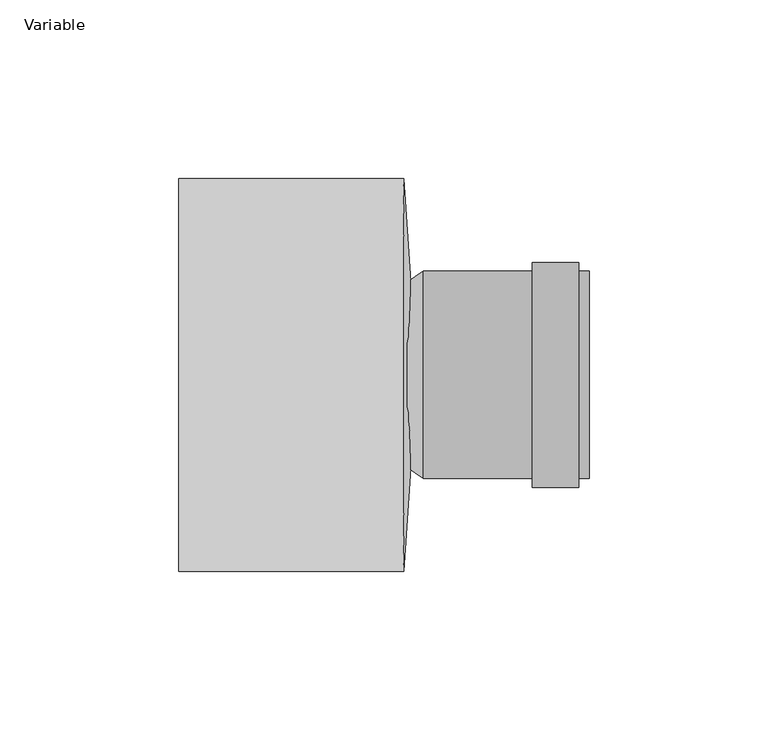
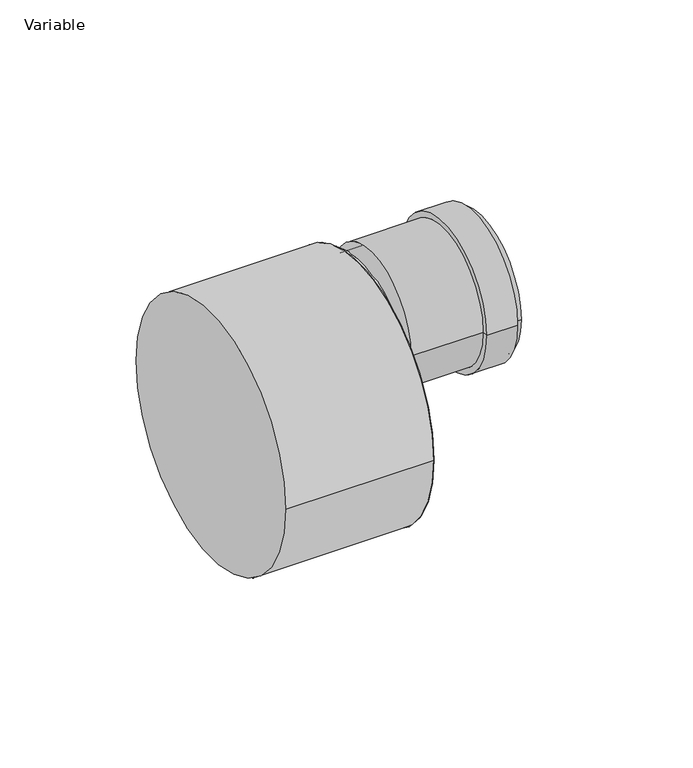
"""IFC4 building model written with IfcOpenShell, lengths in millimetres: pipe fitting geometry, AliaxisFR_Friaphon_Reducer_FR : Variable."""

import ifcopenshell
import ifcopenshell.guid

model = None  # the IFC model being written
_history = None  # IfcOwnerHistory: only IFC2X3 demands one
_inside = {}  # id of a spatial element -> (the spatial element, [elements in it])
_under = {}  # id of a project, library or spatial element -> (it, [spatial elements below it])
_declared = {}  # id of a project -> (the project, [libraries it declares])
_typed = {}  # id of a type object -> (the type object, [elements of that type])
_made_of = {}  # id of a material, layer set ... -> (it, [elements and type objects made of it])


def new_model(schema):
    """Start an empty IFC model of exactly this schema.

    Asked for "IFC4X3", IfcOpenShell would pick the latest addendum, in which some entities
    have other attributes; the version numbers below select the first issue.
    IFC2X3 requires an IfcOwnerHistory on every rooted entity: one is made here for all.
    """
    global model, _history
    if schema == "IFC4X3":
        model = ifcopenshell.file(schema_version=(4, 3, 0, 0))
    else:
        model = ifcopenshell.file(schema=schema)
    _inside.clear()
    _under.clear()
    _declared.clear()
    _typed.clear()
    _made_of.clear()
    _history = None
    if model.schema == "IFC2X3":
        org = make("IfcOrganization", Name="unknown")
        user = make(
            "IfcPersonAndOrganization",
            ThePerson=make("IfcPerson", FamilyName="unknown"),
            TheOrganization=org,
        )
        app = make(
            "IfcApplication",
            ApplicationDeveloper=org,
            Version="unknown",
            ApplicationFullName="unknown",
            ApplicationIdentifier="unknown",
        )
        _history = make(
            "IfcOwnerHistory",
            OwningUser=user,
            OwningApplication=app,
            ChangeAction="ADDED",
            CreationDate=0,
        )
    return model


def make(cls, **values):
    """One entity of the class cls with the attributes given. An attribute that is None is left unset."""
    return model.create_entity(
        cls, **{name: value for name, value in values.items() if value is not None}
    )


def rooted(cls, **values):
    """An entity with a GlobalId (a new one), such as an element, a storey or a relation."""
    return make(cls, GlobalId=ifcopenshell.guid.new(), OwnerHistory=_history, **values)


def si_unit(unit_type, name, prefix=None):
    """IfcSIUnit, for example si_unit("LENGTHUNIT", "METRE", prefix="MILLI")."""
    return make("IfcSIUnit", UnitType=unit_type, Prefix=prefix, Name=name)


def assignment(units):
    """IfcUnitAssignment: the units of a project."""
    return None if units is None else make("IfcUnitAssignment", Units=units)


def point(xyz):
    """IfcCartesianPoint."""
    return None if xyz is None else make("IfcCartesianPoint", Coordinates=xyz)


def direction(xyz):
    """IfcDirection."""
    return None if xyz is None else make("IfcDirection", DirectionRatios=xyz)


def frame(location, z_axis=None, x_axis=None):
    """IfcAxis2Placement3D, a coordinate frame: its origin and axes. An axis left out is left unset."""
    return make(
        "IfcAxis2Placement3D",
        Location=point(location),
        Axis=direction(z_axis),
        RefDirection=direction(x_axis),
    )


def frame_2d(location, x_axis=None):
    """IfcAxis2Placement2D, a coordinate frame in the plane: its origin and x axis."""
    return make(
        "IfcAxis2Placement2D", Location=point(location), RefDirection=direction(x_axis)
    )


def origin():
    """The frame at (0, 0, 0) with its axes left unset."""
    return frame((0.0, 0.0, 0.0))


def origin_2d():
    """The frame at (0, 0) in the plane with its x axis left unset."""
    return frame_2d((0.0, 0.0))


def place(relative_to, where):
    """IfcLocalPlacement: puts the frame where relative to a parent placement (None: the world)."""
    return make(
        "IfcLocalPlacement", PlacementRelTo=relative_to, RelativePlacement=where
    )


def context(
    kind, dimensions, precision=None, world=None, true_north=None, identifier=None
):
    """IfcGeometricRepresentationContext, for example the 3D "Model" context."""
    return make(
        "IfcGeometricRepresentationContext",
        ContextIdentifier=identifier,
        ContextType=kind,
        CoordinateSpaceDimension=dimensions,
        Precision=precision,
        WorldCoordinateSystem=world,
        TrueNorth=true_north,
    )


def project(units=None, contexts=None):
    """IfcProject with its units and contexts."""
    return rooted(
        "IfcProject",
        Name="project",
        RepresentationContexts=contexts,
        UnitsInContext=assignment(units),
    )


def spatial(cls, under=None, at=None, **own):
    """A site, building, storey or space (cls), placed at a placement, below another one or the project."""
    s = rooted(cls, ObjectPlacement=at, **own)
    if under is not None:
        _under.setdefault(under.id(), (under, []))[1].append(s)
    return s


def polyline(points):
    """IfcPolyline through the points."""
    return make("IfcPolyline", Points=[point(p) for p in points])


def circle_curve(where, radius):
    """IfcCircle in the frame where."""
    return make("IfcCircle", Position=where, Radius=radius)


def trimmed(basis, trim1, trim2, sense, master):
    """IfcTrimmedCurve: the piece of a basis curve between two trims."""
    return make(
        "IfcTrimmedCurve",
        BasisCurve=basis,
        Trim1=trim1,
        Trim2=trim2,
        SenseAgreement=sense,
        MasterRepresentation=master,
    )


def segment(curve, same_sense, transition):
    """IfcCompositeCurveSegment."""
    return make(
        "IfcCompositeCurveSegment",
        Transition=transition,
        SameSense=same_sense,
        ParentCurve=curve,
    )


def composite_curve(segments, self_intersect=None):
    """IfcCompositeCurve: segments joined end to end."""
    return make("IfcCompositeCurve", Segments=segments, SelfIntersect=self_intersect)


def outline(outer, holes=None, kind="AREA"):
    """IfcArbitraryClosedProfileDef: a profile drawn as a closed curve; with holes, ...WithVoids."""
    if holes is None:
        return make("IfcArbitraryClosedProfileDef", ProfileType=kind, OuterCurve=outer)
    return make(
        "IfcArbitraryProfileDefWithVoids",
        ProfileType=kind,
        OuterCurve=outer,
        InnerCurves=holes,
    )


def extrude(swept, where, along, depth):
    """IfcExtrudedAreaSolid: the profile swept, set in the frame where, extruded along a direction by depth."""
    return make(
        "IfcExtrudedAreaSolid",
        SweptArea=swept,
        Position=where,
        ExtrudedDirection=direction(along),
        Depth=depth,
    )


def shape(context_of_items, identifier, shape_type, items):
    """IfcShapeRepresentation: the items that make up one representation, for example the "Body"."""
    return make(
        "IfcShapeRepresentation",
        ContextOfItems=context_of_items,
        RepresentationIdentifier=identifier,
        RepresentationType=shape_type,
        Items=items,
    )


def source(mapping_origin, context_of_items, identifier, shape_type, items):
    """IfcRepresentationMap: a shape defined once, which mapped items show again and again."""
    return make(
        "IfcRepresentationMap",
        MappingOrigin=mapping_origin,
        MappedRepresentation=shape(context_of_items, identifier, shape_type, items),
    )


def transform(
    local_origin,
    x_axis=None,
    y_axis=None,
    z_axis=None,
    scale=None,
    scale2=None,
    scale3=None,
    uniform=True,
):
    """IfcCartesianTransformationOperator3D, or its non-uniform kind. x_axis, y_axis, z_axis: its Axis1, 2, 3."""
    if uniform:
        return make(
            "IfcCartesianTransformationOperator3D",
            Axis1=direction(x_axis),
            Axis2=direction(y_axis),
            LocalOrigin=point(local_origin),
            Scale=scale,
            Axis3=direction(z_axis),
        )
    return make(
        "IfcCartesianTransformationOperator3DnonUniform",
        Axis1=direction(x_axis),
        Axis2=direction(y_axis),
        LocalOrigin=point(local_origin),
        Scale=scale,
        Axis3=direction(z_axis),
        Scale2=scale2,
        Scale3=scale3,
    )


def mapped(mapping_source, mapping_target):
    """IfcMappedItem: shows the shape of a source again, moved by a transform."""
    return make(
        "IfcMappedItem", MappingSource=mapping_source, MappingTarget=mapping_target
    )


def made_of(thing, what):
    """Note that an element or type object is made of a material, layer set ...; save() writes the relation."""
    if what is not None:
        _made_of.setdefault(what.id(), (what, []))[1].append(thing)
    return thing


def element(
    cls,
    number,
    at=None,
    inside=None,
    cuts=None,
    type_object=None,
    material=None,
    context=None,
    identifier="Body",
    shape_type=None,
    held_by="IfcProductDefinitionShape",
    body=None,
    shapes=None,
    **own,
):
    """One element of the class cls, such as IfcWall. Its Tag is "e" and its number.

    at: its placement. inside: the storey or other place that contains it. cuts: it is an
    opening in that element (IfcRelVoidsElement). A single representation is given by context,
    identifier, shape_type and body (its items); several are given by shapes. held_by: the class
    of the entity that holds the representations. save() writes the other relations.
    """
    e = rooted(cls, Tag="e%d" % number, ObjectPlacement=at, **own)
    if body is not None:
        shapes = [shape(context, identifier, shape_type, body)]
    if shapes is not None:
        e.Representation = make(held_by, Representations=shapes)
    if inside is not None:
        _inside.setdefault(inside.id(), (inside, []))[1].append(e)
    if cuts is not None:
        rooted(
            "IfcRelVoidsElement", RelatingBuildingElement=cuts, RelatedOpeningElement=e
        )
    if type_object is not None:
        _typed.setdefault(type_object.id(), (type_object, []))[1].append(e)
    return made_of(e, material)


def aggregate(whole, parts):
    """IfcRelAggregates: a whole, such as a stair, and the parts it consists of."""
    return rooted("IfcRelAggregates", RelatingObject=whole, RelatedObjects=parts)


def save(model, path):
    """Write the relations noted so far, then the file.

    IfcRelAggregates (storeys below a building ...), IfcRelContainedInSpatialStructure (elements
    in a storey), IfcRelDefinesByType, IfcRelAssociatesMaterial and IfcRelDeclares: one each for
    every whole, place, type object, material and project.
    """
    for whole, parts in _under.values():
        aggregate(whole, parts)
    for where, things in _inside.values():
        rooted(
            "IfcRelContainedInSpatialStructure",
            RelatedElements=things,
            RelatingStructure=where,
        )
    for kind, things in _typed.values():
        rooted("IfcRelDefinesByType", RelatedObjects=things, RelatingType=kind)
    for what, things in _made_of.values():
        rooted("IfcRelAssociatesMaterial", RelatedObjects=things, RelatingMaterial=what)
    for by, libraries in _declared.values():
        rooted("IfcRelDeclares", RelatingContext=by, RelatedDefinitions=libraries)
    model.write(path)


def plane_surface(at):
    """IfcPlane: the flat surface through the origin of the frame at, square to its z axis."""
    return make("IfcPlane", Position=at)


def cylinder_surface(at, radius):
    """IfcCylindricalSurface: all points at the distance radius from the z axis of the frame at."""
    return make("IfcCylindricalSurface", Position=at, Radius=radius)


def revolved_surface(curve, axis_point, axis_direction):
    """IfcSurfaceOfRevolution: the curve turned about the line through axis_point along axis_direction."""
    return make(
        "IfcSurfaceOfRevolution",
        SweptCurve=make("IfcArbitraryOpenProfileDef", ProfileType="CURVE", Curve=curve),
        AxisPosition=make("IfcAxis1Placement", Location=point(axis_point), Axis=direction(axis_direction)),
    )


def spline_surface(u_degree, v_degree, points, u_multiplicities, v_multiplicities, u_knots, v_knots, weights=None):
    """IfcBSplineSurfaceWithKnots; with weights, IfcRationalBSplineSurfaceWithKnots. points: one row for each step in u."""
    own = dict(
        UDegree=u_degree,
        VDegree=v_degree,
        ControlPointsList=[[point(p) for p in row] for row in points],
        SurfaceForm="UNSPECIFIED",
        UClosed=False,
        VClosed=False,
        SelfIntersect=False,
        UMultiplicities=u_multiplicities,
        VMultiplicities=v_multiplicities,
        UKnots=u_knots,
        VKnots=v_knots,
        KnotSpec="UNSPECIFIED",
    )
    if weights is None:
        return make("IfcBSplineSurfaceWithKnots", **own)
    return make("IfcRationalBSplineSurfaceWithKnots", WeightsData=weights, **own)


def advanced_brep(points, edges, surfaces, faces):
    """IfcAdvancedBrep: a solid bounded by faces that lie on surfaces and meet in shared edges.

    An edge is (start, end): straight between two places in points (the first is 0);
    or (start, end, curve); or (start, end, curve, False) where it runs against its curve.
    A face is (place in surfaces, loops), or (place, loops, False) where it looks against
    its surface's normal. A loop lists edges by number (the first is 1), with a minus sign
    where the edge is run from its end to its start. The first loop is the outer one.
    """
    corners = [point(p) for p in points]
    vertices = [make("IfcVertexPoint", VertexGeometry=c) for c in corners]
    made = []
    for start, end, *more in edges:
        made.append(
            make(
                "IfcEdgeCurve",
                EdgeStart=vertices[start],
                EdgeEnd=vertices[end],
                EdgeGeometry=more[0] if more else make("IfcPolyline", Points=[corners[start], corners[end]]),
                SameSense=more[1] if len(more) > 1 else True,
            )
        )
    hull = []
    for where, loops, *sense in faces:
        bounds = []
        for j, loop in enumerate(loops):
            ring = [make("IfcOrientedEdge", EdgeElement=made[abs(k) - 1], Orientation=k > 0) for k in loop]
            bounds.append(
                make(
                    "IfcFaceOuterBound" if j == 0 else "IfcFaceBound",
                    Bound=make("IfcEdgeLoop", EdgeList=ring),
                    Orientation=True,
                )
            )
        hull.append(make("IfcAdvancedFace", Bounds=bounds, FaceSurface=surfaces[where], SameSense=sense[0] if sense else True))
    return make("IfcAdvancedBrep", Outer=make("IfcClosedShell", CfsFaces=hull))


def variable_dde04700(model_context):
    return source(origin(), model_context, "Body", "SolidModel", [
        advanced_brep(
        [(81.5, -29.0, 0.0), (81.5, -26.0, 0.0), (81.5, 26.0, 0.0), (81.5, 29.0, 0.0), (65.5, -31.5, 0.0), (78.5, -31.5, 0.0), (78.5, 31.5, 0.0), (65.5, 31.5, 0.0), (65.5, -29.0, 0.0), (65.5, 29.0, 0.0), (35.0, -29.0, 0.0), (35.0, 29.0, 0.0), (30.5, -26.0, 0.0), (30.5, 26.0, 0.0), (78.5, -29.0, 0.0), (78.5, 29.0, 0.0)],
        [
            (0, 1),
            (1, 2, circle_curve(frame((81.5, 0.0, 0.0), z_axis=(-1.0, 0.0, 0.0), x_axis=(0.0, 1.0, 0.0)), 26.0)),
            (2, 3),
            (3, 0, circle_curve(frame((81.5, 0.0, 0.0), z_axis=(1.0, 0.0, 0.0), x_axis=(0.0, 1.0, 0.0)), 29.0)),
            (2, 1, circle_curve(frame((81.5, 0.0, 0.0), z_axis=(-1.0, 0.0, 0.0), x_axis=(0.0, 1.0, 0.0)), 26.0)),
            (0, 3, circle_curve(frame((81.5, 0.0, 0.0), z_axis=(1.0, 0.0, 0.0), x_axis=(0.0, 1.0, 0.0)), 29.0)),
            (4, 5),
            (5, 6, circle_curve(frame((78.5, 0.0, 0.0), z_axis=(-1.0, 0.0, 0.0), x_axis=(0.0, 1.0, 0.0)), 31.5)),
            (6, 7),
            (7, 4, circle_curve(frame((65.5, 0.0, 0.0), z_axis=(1.0, 0.0, 0.0), x_axis=(0.0, 1.0, 0.0)), 31.5)),
            (6, 5, circle_curve(frame((78.5, 0.0, 0.0), z_axis=(-1.0, 0.0, 0.0), x_axis=(0.0, 1.0, 0.0)), 31.5)),
            (4, 7, circle_curve(frame((65.5, 0.0, 0.0), z_axis=(1.0, 0.0, 0.0), x_axis=(0.0, 1.0, 0.0)), 31.5)),
            (8, 4),
            (7, 9),
            (9, 8, circle_curve(frame((65.5, 0.0, 0.0), z_axis=(1.0, 0.0, 0.0), x_axis=(0.0, 1.0, 0.0)), 29.0)),
            (8, 9, circle_curve(frame((65.5, 0.0, 0.0), z_axis=(1.0, 0.0, 0.0), x_axis=(0.0, 1.0, 0.0)), 29.0)),
            (10, 8),
            (9, 11),
            (11, 10, circle_curve(frame((35.0, 0.0, 0.0), z_axis=(1.0, 0.0, 0.0), x_axis=(0.0, 1.0, 0.0)), 29.0)),
            (10, 11, circle_curve(frame((35.0, 0.0, 0.0), z_axis=(1.0, 0.0, 0.0), x_axis=(0.0, 1.0, 0.0)), 29.0)),
            (1, 12),
            (12, 13, circle_curve(frame((30.5, 0.0, 0.0), z_axis=(-1.0, 0.0, 0.0), x_axis=(0.0, 1.0, 0.0)), 26.0)),
            (13, 2),
            (13, 12, circle_curve(frame((30.5, 0.0, 0.0), z_axis=(-1.0, 0.0, 0.0), x_axis=(0.0, 1.0, 0.0)), 26.0)),
            (12, 10),
            (11, 13),
            (14, 0),
            (3, 15),
            (15, 14, circle_curve(frame((78.5, 0.0, 0.0), z_axis=(1.0, 0.0, 0.0), x_axis=(0.0, 1.0, 0.0)), 29.0)),
            (14, 15, circle_curve(frame((78.5, 0.0, 0.0), z_axis=(1.0, 0.0, 0.0), x_axis=(0.0, 1.0, 0.0)), 29.0)),
            (5, 14),
            (15, 6),
        ],
        [
            plane_surface(frame((81.5, 0.0, 0.0), z_axis=(1.0, 0.0, 0.0), x_axis=(0.0, 1.0, 0.0))),
            cylinder_surface(frame((30.5, 0.0, 0.0), z_axis=(-1.0, 0.0, 0.0), x_axis=(0.0, 1.0, 0.0)), 31.5),
            plane_surface(frame((65.5, 0.0, 0.0), z_axis=(-1.0, 0.0, 0.0), x_axis=(0.0, 1.0, 0.0))),
            cylinder_surface(frame((30.5, 0.0, 0.0), z_axis=(-1.0, 0.0, 0.0), x_axis=(0.0, 1.0, 0.0)), 29.0),
            revolved_surface(polyline([(30.5, 26.0, 0.0), (81.5, 26.0, 0.0)]), (30.5, 0.0, 0.0), (-1.0, 0.0, 0.0)),
            revolved_surface(polyline([(35.0, 29.0, 0.0), (30.5, 26.0, 0.0)]), (30.5, 0.0, 0.0), (-1.0, 0.0, 0.0)),
            plane_surface(frame((78.5, 0.0, 0.0), z_axis=(1.0, 0.0, 0.0), x_axis=(0.0, 1.0, 0.0))),
        ],
        [
            (0, [[1, 2, 3, 4]]),
            (0, [[-3, 5, -1, 6]]),
            (1, [[7, 8, 9, 10]]),
            (1, [[-9, 11, -7, 12]]),
            (2, [[13, -10, 14, 15]]),
            (2, [[-14, -12, -13, 16]]),
            (3, [[17, -15, 18, 19]]),
            (3, [[-18, -16, -17, 20]]),
            (4, [[21, 22, 23, -2]]),
            (4, [[-23, 24, -21, -5]]),
            (5, [[25, -19, 26, -22]]),
            (5, [[-26, -20, -25, -24]]),
            (3, [[27, -4, 28, 29]]),
            (3, [[-28, -6, -27, 30]]),
            (6, [[31, -29, 32, -8]]),
            (6, [[-32, -30, -31, -11]]),
        ],
    ),
        extrude(outline(composite_curve([segment(trimmed(circle_curve(origin_2d(), 26.0), [point((-26.0, 0.0))], [point((26.0, 0.0))], False, "CARTESIAN"), True, "CONTINUOUS"), segment(trimmed(circle_curve(origin_2d(), 26.0), [point((26.0, 0.0))], [point((-26.0, 0.0))], False, "CARTESIAN"), True, "CONTINUOUS")], self_intersect=False)), frame((31.5, 0.0, 0.0), z_axis=(1.0, 0.0, 0.0), x_axis=(0.0, 1.0, 0.0)), (0.0, 0.0, 1.0), 2.0),
        advanced_brep(
        [(31.5, -26.0, 0.0), (31.5, 26.0, 0.0), (29.5, -55.0, -29.0), (29.5, 55.0, -29.0)],
        [
            (0, 1, circle_curve(frame((31.5, 0.0, 0.0), z_axis=(1.0, 0.0, 0.0), x_axis=(0.0, 1.0, 0.0)), 26.0)),
            (1, 0, circle_curve(frame((31.5, 0.0, 0.0), z_axis=(1.0, 0.0, 0.0), x_axis=(0.0, 1.0, 0.0)), 26.0)),
            (2, 3, circle_curve(frame((29.5, 0.0, -29.0), z_axis=(-1.0, 0.0, 0.0), x_axis=(0.0, 1.0, 0.0)), 55.0)),
            (3, 2, circle_curve(frame((29.5, 0.0, -29.0), z_axis=(-1.0, 0.0, 0.0), x_axis=(0.0, 1.0, 0.0)), 55.0)),
            (2, 0),
            (1, 3),
        ],
        [
            plane_surface(frame((31.5, 0.0, 0.0), z_axis=(1.0, 0.0, 0.0), x_axis=(0.0, 0.0, 1.0))),
            plane_surface(frame((29.5, 0.0, -29.0), z_axis=(-1.0, 0.0, 0.0), x_axis=(0.0, 0.0, 1.0))),
            spline_surface(1, 2, [[(29.5, -55.0, -29.0), (29.5, -55.0, 26.0), (29.5, 0.0, 26.0), (29.5, 55.0, 26.0), (29.5, 55.0, -29.0)], [(31.5, -26.0, 0.0), (31.5, -26.0, 26.0), (31.5, 0.0, 26.0), (31.5, 26.0, 26.0), (31.5, 26.0, 0.0)]], [2, 2], [3, 2, 3], [0.0, 1.0], [0.0, 1.0, 2.0], weights=[[1.0, 0.7071067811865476, 1.0, 0.7071067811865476, 1.0], [1.0, 0.7071067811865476, 1.0, 0.7071067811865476, 1.0]]),
            spline_surface(1, 2, [[(29.5, 55.0, -29.0), (29.5, 55.0, -84.0), (29.5, 0.0, -84.0), (29.5, -55.0, -84.0), (29.5, -55.0, -29.0)], [(31.5, 26.0, 0.0), (31.5, 26.0, -26.0), (31.5, 0.0, -26.0), (31.5, -26.0, -26.0), (31.5, -26.0, 0.0)]], [2, 2], [3, 2, 3], [0.0, 1.0], [0.0, 1.0, 2.0], weights=[[1.0, 0.7071067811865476, 1.0, 0.7071067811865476, 1.0], [1.0, 0.7071067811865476, 1.0, 0.7071067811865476, 1.0]]),
        ],
        [
            (0, [[1, 2]]),
            (1, [[3, 4]]),
            (2, [[5, -2, 6, -3]]),
            (3, [[-6, -1, -5, -4]]),
        ],
    ),
        extrude(outline(composite_curve([segment(trimmed(circle_curve(frame_2d((0.0, -29.0)), 55.0), [point((-55.0, -29.0))], [point((55.0, -29.0))], False, "CARTESIAN"), True, "CONTINUOUS"), segment(trimmed(circle_curve(frame_2d((0.0, -29.0)), 55.0), [point((55.0, -29.0))], [point((-55.0, -29.0))], False, "CARTESIAN"), True, "CONTINUOUS")], self_intersect=False)), frame((-33.5, 0.0, 0.0), z_axis=(1.0, 0.0, 0.0), x_axis=(0.0, 1.0, 0.0)), (0.0, 0.0, 1.0), 63.0),
    ])


if __name__ == "__main__":
    model = new_model("IFC4")
    model_context = context("Model", 3, world=origin())
    ifc_project = project(units=[si_unit("LENGTHUNIT", "METRE", prefix="MILLI")], contexts=[model_context])
    site = spatial("IfcSite", under=ifc_project)
    building = spatial("IfcBuilding", under=site)
    placement = place(None, origin())
    variable_shape = variable_dde04700(model_context)
    element("IfcPipeFitting", 1, ObjectType="AliaxisFR_Friaphon_Reducer_FR : Variable", at=placement, inside=building, context=model_context, shape_type="MappedRepresentation", body=[
        mapped(variable_shape, transform((0.0, 0.0, 0.0), x_axis=(1.0, 0.0, 0.0), y_axis=(0.0, 1.0, 0.0), z_axis=(0.0, 0.0, 1.0))),
    ])
    save(model, "model.ifc")
